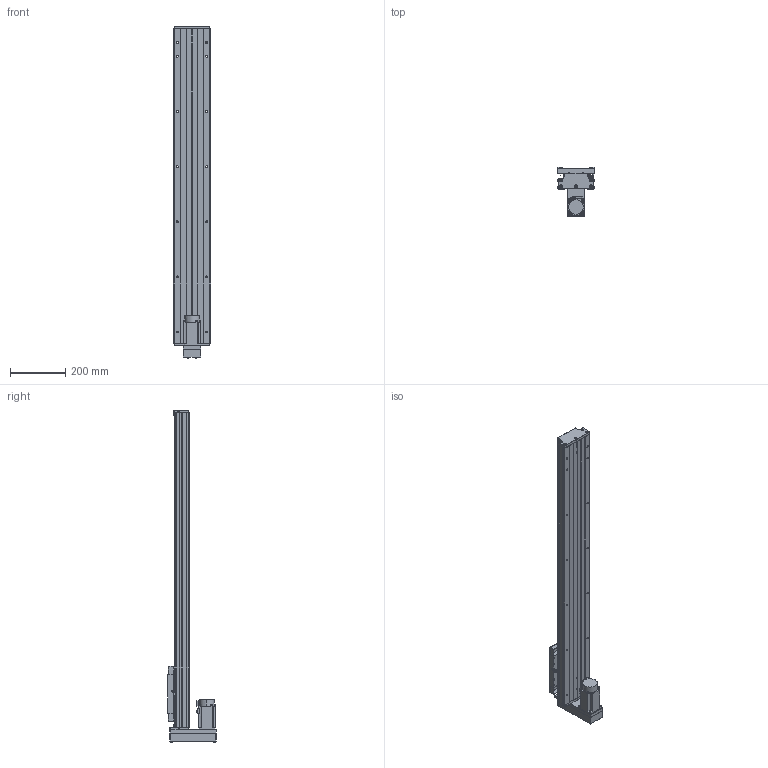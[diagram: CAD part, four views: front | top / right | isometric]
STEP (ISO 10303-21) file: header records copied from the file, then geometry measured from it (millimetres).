
FILE_DESCRIPTION (( 'STEP AP203' ), '1' );
FILE_NAME ('GTH14-900-BM-M40-C4.step', '2023-06-30T08:47:50', ( '微软用户' ), ( '微软中国' ), 'SwSTEP 2.0', 'SolidWorks 2020', '' );
FILE_SCHEMA (( 'CONFIG_CONTROL_DESIGN' ));
Length unit declared in the file: millimetre
Products named in the file (19): CTHA60-016; GBT 70.2-M4¡Á35_M4¡Á35; GBT70.1 M5℅16; GBT 70.1-M3℅5; GTH14-015-2_CTHA86-015-2; CTHA60-017; GBT77-2000 M3×3; GTH14-001_900; GTH14-033; EE_SX911P_R; GTH14-031; GTH14-002_GTH14-002; GTH14-900-BM-M40-C4; GBT 70.2-M3¡Á5_M3¡Á6; GTH14-004; す晦芛蹟隊 M3℅5; GTH14-005; HG-KN43J-S100; GB1155-6X6
Assembly tree (58 placements, depth 2):
  GTH14-900-BM-M40-C4
    GTH14-001_900
    GTH14-002_GTH14-002
    GTH14-004
    GTH14-005
    GB1155-6X6  x2
    GBT70.1 M5℅16  x10
    CTHA60-017  x3
    EE_SX911P_R  x3
    CTHA60-016  x2
    GBT 70.1-M3℅5  x6
    GBT77-2000 M3×3  x6
    GTH14-031
    GBT 70.2-M3¡Á5_M3¡Á6  x8
    す晦芛蹟隊 M3℅5  x6
    HG-KN43J-S100
    GBT 70.2-M4¡Á35_M4¡Á35  x4
    GTH14-015-2_CTHA86-015-2
    GTH14-033
Bounding box: 135 x 177.5 x 1204.2 mm (x, y, z)
Volume: 6483555.9 mm3; surface area: 1056379 mm2
Topology: 61 solids, 61 shells, 2473 faces, 5881 edges, 3626 vertices
Faces by surface type: plane 1311, cylinder 672, cone 314, torus 124, sphere 32, bspline 20
Entity records: 44774 total; most frequent: CARTESIAN_POINT 9957, DIRECTION 6609, ORIENTED_EDGE 6452, EDGE_CURVE 3226, AXIS2_PLACEMENT_3D 2270, LINE 2069, VECTOR 2069, VERTEX_POINT 2044
